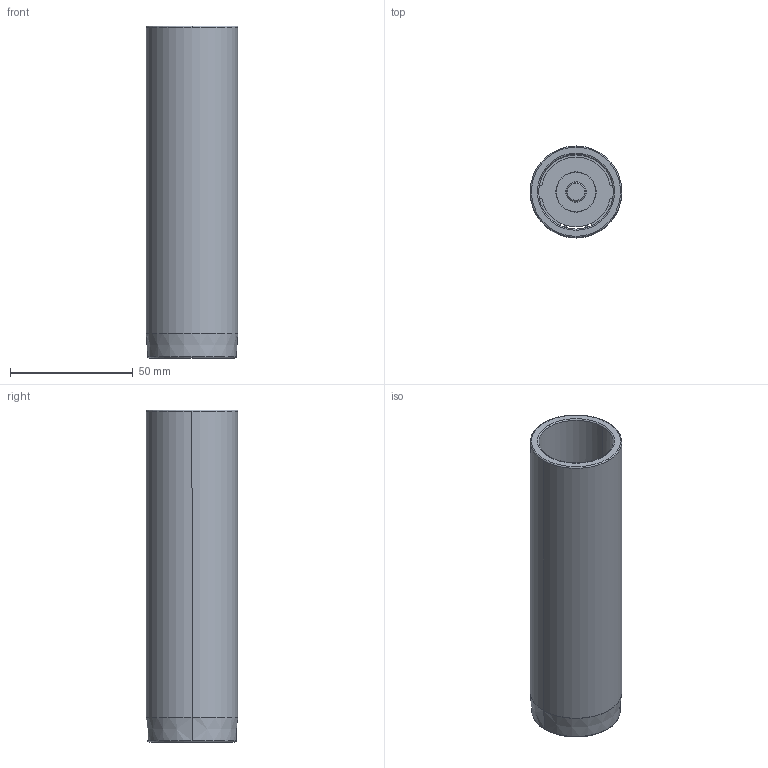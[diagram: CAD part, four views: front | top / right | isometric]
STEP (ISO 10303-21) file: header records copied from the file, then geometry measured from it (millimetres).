
FILE_DESCRIPTION((''),'2;1');
FILE_NAME('C12_030_135.stp','2009-01-28T09:47:54',(''),(''),'Mechanical Desktop 2009','Mechanical Desktop 2009',', , ');
FILE_SCHEMA(('CONFIG_CONTROL_DESIGN'));
Length unit declared in the file: millimetre
Products named in the file (2): Product; blmdl1
Assembly tree (1 placements, depth 2):
  Product
    blmdl1
Bounding box: 37.25 x 37.25 x 135 mm (x, y, z)
Volume: 51501.7 mm3; surface area: 33764 mm2
Topology: 5 solids, 5 shells, 79 faces, 200 edges, 134 vertices
Faces by surface type: cylinder 34, plane 29, torus 10, cone 6
Entity records: 2585 total; most frequent: DIRECTION 480, CARTESIAN_POINT 435, ORIENTED_EDGE 400, AXIS2_PLACEMENT_3D 203, EDGE_CURVE 200, VERTEX_POINT 134, CIRCLE 122, EDGE_LOOP 92
